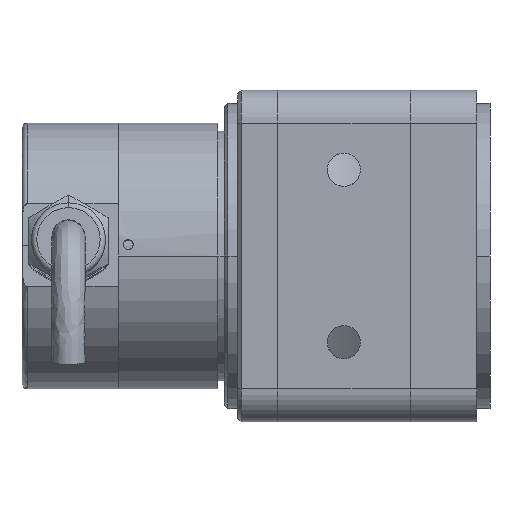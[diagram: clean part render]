
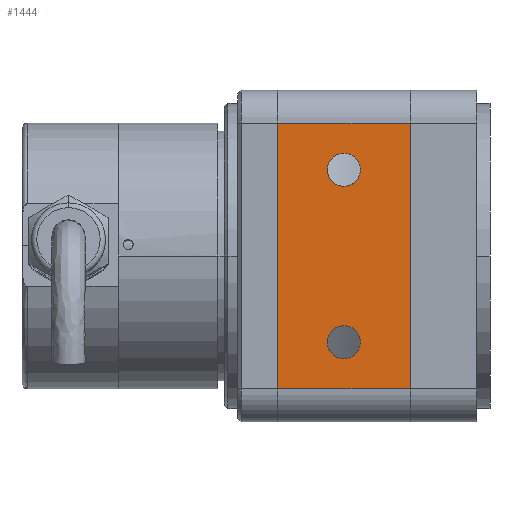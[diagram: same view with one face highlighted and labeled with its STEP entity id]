
A CAD part, left-side view. The second image highlights one B-rep face of the part: STEP entity #1444.
In plain terms, the highlighted planar face has unit normal (-1, 0, 0).
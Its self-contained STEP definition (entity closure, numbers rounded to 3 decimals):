
#1444=ADVANCED_FACE('',(#1741,#1742,#1743),#1579,.T.);
#1579=PLANE('',#8475);
#1741=FACE_BOUND('',#2231,.T.);
#1742=FACE_BOUND('',#2232,.T.);
#1743=FACE_BOUND('',#2233,.T.);
#2231=EDGE_LOOP('',(#4894,#4895,#4896,#4897));
#2232=EDGE_LOOP('',(#4898,#4899));
#2233=EDGE_LOOP('',(#4900,#4901));
#2797=CIRCLE('',#8471,2.5);
#2798=CIRCLE('',#8472,2.5);
#2799=CIRCLE('',#8473,2.5);
#2800=CIRCLE('',#8474,2.5);
#4894=ORIENTED_EDGE('',*,*,#6858,.F.);
#4895=ORIENTED_EDGE('',*,*,#6859,.T.);
#4896=ORIENTED_EDGE('',*,*,#6843,.T.);
#4897=ORIENTED_EDGE('',*,*,#6857,.F.);
#4898=ORIENTED_EDGE('',*,*,#6860,.F.);
#4899=ORIENTED_EDGE('',*,*,#6861,.F.);
#4900=ORIENTED_EDGE('',*,*,#6862,.F.);
#4901=ORIENTED_EDGE('',*,*,#6863,.F.);
#5755=VERTEX_POINT('',#14858);
#5756=VERTEX_POINT('',#14859);
#5768=VERTEX_POINT('',#14885);
#5769=VERTEX_POINT('',#14889);
#5770=VERTEX_POINT('',#14892);
#5771=VERTEX_POINT('',#14893);
#5772=VERTEX_POINT('',#14896);
#5773=VERTEX_POINT('',#14897);
#6843=EDGE_CURVE('',#5755,#5756,#7204,.T.);
#6857=EDGE_CURVE('',#5768,#5756,#7209,.T.);
#6858=EDGE_CURVE('',#5769,#5768,#7210,.T.);
#6859=EDGE_CURVE('',#5769,#5755,#7211,.T.);
#6860=EDGE_CURVE('',#5770,#5771,#2797,.T.);
#6861=EDGE_CURVE('',#5771,#5770,#2798,.T.);
#6862=EDGE_CURVE('',#5772,#5773,#2799,.T.);
#6863=EDGE_CURVE('',#5773,#5772,#2800,.T.);
#7204=LINE('',#14857,#7521);
#7209=LINE('',#14886,#7526);
#7210=LINE('',#14888,#7527);
#7211=LINE('',#14890,#7528);
#7521=VECTOR('',#10605,1.);
#7526=VECTOR('',#10630,1.);
#7527=VECTOR('',#10633,1.);
#7528=VECTOR('',#10634,1.);
#8471=AXIS2_PLACEMENT_3D('',#14891,#10635,#10636);
#8472=AXIS2_PLACEMENT_3D('',#14894,#10637,#10638);
#8473=AXIS2_PLACEMENT_3D('',#14895,#10639,#10640);
#8474=AXIS2_PLACEMENT_3D('',#14898,#10641,#10642);
#8475=AXIS2_PLACEMENT_3D('',#14899,#10643,#10644);
#10605=DIRECTION('',(0.,0.,-1.));
#10630=DIRECTION('',(0.,1.,0.));
#10633=DIRECTION('',(0.,0.,-1.));
#10634=DIRECTION('',(0.,1.,0.));
#10635=DIRECTION('',(-1.,0.,0.));
#10636=DIRECTION('',(0.,0.,-1.));
#10637=DIRECTION('',(-1.,0.,0.));
#10638=DIRECTION('',(0.,0.,1.));
#10639=DIRECTION('',(-1.,0.,0.));
#10640=DIRECTION('',(0.,0.,-1.));
#10641=DIRECTION('',(-1.,0.,0.));
#10642=DIRECTION('',(0.,0.,1.));
#10643=DIRECTION('',(-1.,0.,0.));
#10644=DIRECTION('',(0.,0.,-1.));
#14857=CARTESIAN_POINT('',(-195.54,134.137,82.111));
#14858=CARTESIAN_POINT('',(-195.54,134.137,82.111));
#14859=CARTESIAN_POINT('',(-195.54,134.137,42.111));
#14885=CARTESIAN_POINT('',(-195.54,114.137,42.111));
#14886=CARTESIAN_POINT('',(-195.54,114.137,42.111));
#14888=CARTESIAN_POINT('',(-195.54,114.137,82.111));
#14889=CARTESIAN_POINT('',(-195.54,114.137,82.111));
#14890=CARTESIAN_POINT('',(-195.54,114.137,82.111));
#14891=CARTESIAN_POINT('',(-195.54,124.137,49.111));
#14892=CARTESIAN_POINT('',(-195.54,124.137,46.611));
#14893=CARTESIAN_POINT('',(-195.54,124.137,51.611));
#14894=CARTESIAN_POINT('',(-195.54,124.137,49.111));
#14895=CARTESIAN_POINT('',(-195.54,124.137,75.111));
#14896=CARTESIAN_POINT('',(-195.54,124.137,72.611));
#14897=CARTESIAN_POINT('',(-195.54,124.137,77.611));
#14898=CARTESIAN_POINT('',(-195.54,124.137,75.111));
#14899=CARTESIAN_POINT('',(-195.54,134.137,87.111));
